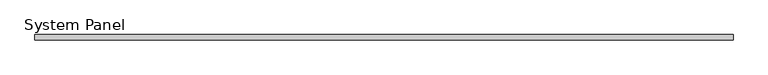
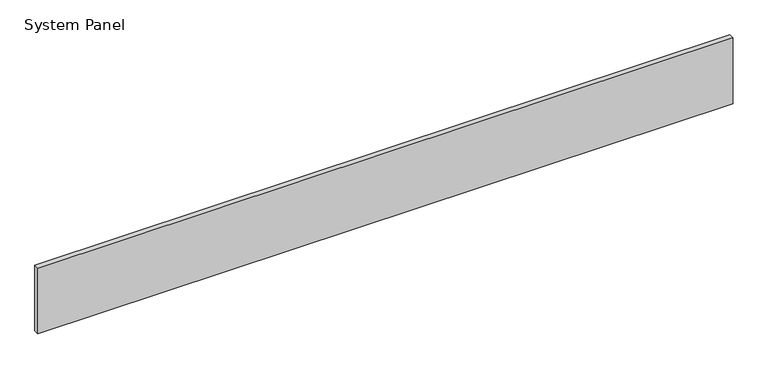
"""IFC4 building model written with IfcOpenShell, lengths in millimetres: plate geometry, System Panel : InsulWall_90mm_Plain_Surfmist."""

import ifcopenshell
import ifcopenshell.guid

model = None  # the IFC model being written
_history = None  # IfcOwnerHistory: only IFC2X3 demands one
_inside = {}  # id of a spatial element -> (the spatial element, [elements in it])
_under = {}  # id of a project, library or spatial element -> (it, [spatial elements below it])
_declared = {}  # id of a project -> (the project, [libraries it declares])
_typed = {}  # id of a type object -> (the type object, [elements of that type])
_made_of = {}  # id of a material, layer set ... -> (it, [elements and type objects made of it])


def new_model(schema):
    """Start an empty IFC model of exactly this schema.

    Asked for "IFC4X3", IfcOpenShell would pick the latest addendum, in which some entities
    have other attributes; the version numbers below select the first issue.
    IFC2X3 requires an IfcOwnerHistory on every rooted entity: one is made here for all.
    """
    global model, _history
    if schema == "IFC4X3":
        model = ifcopenshell.file(schema_version=(4, 3, 0, 0))
    else:
        model = ifcopenshell.file(schema=schema)
    _inside.clear()
    _under.clear()
    _declared.clear()
    _typed.clear()
    _made_of.clear()
    _history = None
    if model.schema == "IFC2X3":
        org = make("IfcOrganization", Name="unknown")
        user = make(
            "IfcPersonAndOrganization",
            ThePerson=make("IfcPerson", FamilyName="unknown"),
            TheOrganization=org,
        )
        app = make(
            "IfcApplication",
            ApplicationDeveloper=org,
            Version="unknown",
            ApplicationFullName="unknown",
            ApplicationIdentifier="unknown",
        )
        _history = make(
            "IfcOwnerHistory",
            OwningUser=user,
            OwningApplication=app,
            ChangeAction="ADDED",
            CreationDate=0,
        )
    return model


def make(cls, **values):
    """One entity of the class cls with the attributes given. An attribute that is None is left unset."""
    return model.create_entity(
        cls, **{name: value for name, value in values.items() if value is not None}
    )


def rooted(cls, **values):
    """An entity with a GlobalId (a new one), such as an element, a storey or a relation."""
    return make(cls, GlobalId=ifcopenshell.guid.new(), OwnerHistory=_history, **values)


def si_unit(unit_type, name, prefix=None):
    """IfcSIUnit, for example si_unit("LENGTHUNIT", "METRE", prefix="MILLI")."""
    return make("IfcSIUnit", UnitType=unit_type, Prefix=prefix, Name=name)


def assignment(units):
    """IfcUnitAssignment: the units of a project."""
    return None if units is None else make("IfcUnitAssignment", Units=units)


def point(xyz):
    """IfcCartesianPoint."""
    return None if xyz is None else make("IfcCartesianPoint", Coordinates=xyz)


def direction(xyz):
    """IfcDirection."""
    return None if xyz is None else make("IfcDirection", DirectionRatios=xyz)


def frame(location, z_axis=None, x_axis=None):
    """IfcAxis2Placement3D, a coordinate frame: its origin and axes. An axis left out is left unset."""
    return make(
        "IfcAxis2Placement3D",
        Location=point(location),
        Axis=direction(z_axis),
        RefDirection=direction(x_axis),
    )


def origin():
    """The frame at (0, 0, 0) with its axes left unset."""
    return frame((0.0, 0.0, 0.0))


def origin_with_axes():
    """The frame at (0, 0, 0) with the z axis (0, 0, 1) and the x axis (1, 0, 0) written out."""
    return frame((0.0, 0.0, 0.0), z_axis=(0.0, 0.0, 1.0), x_axis=(1.0, 0.0, 0.0))


def place(relative_to, where):
    """IfcLocalPlacement: puts the frame where relative to a parent placement (None: the world)."""
    return make(
        "IfcLocalPlacement", PlacementRelTo=relative_to, RelativePlacement=where
    )


def context(
    kind, dimensions, precision=None, world=None, true_north=None, identifier=None
):
    """IfcGeometricRepresentationContext, for example the 3D "Model" context."""
    return make(
        "IfcGeometricRepresentationContext",
        ContextIdentifier=identifier,
        ContextType=kind,
        CoordinateSpaceDimension=dimensions,
        Precision=precision,
        WorldCoordinateSystem=world,
        TrueNorth=true_north,
    )


def project(units=None, contexts=None):
    """IfcProject with its units and contexts."""
    return rooted(
        "IfcProject",
        Name="project",
        RepresentationContexts=contexts,
        UnitsInContext=assignment(units),
    )


def spatial(cls, under=None, at=None, **own):
    """A site, building, storey or space (cls), placed at a placement, below another one or the project."""
    s = rooted(cls, ObjectPlacement=at, **own)
    if under is not None:
        _under.setdefault(under.id(), (under, []))[1].append(s)
    return s


def polyline(points):
    """IfcPolyline through the points."""
    return make("IfcPolyline", Points=[point(p) for p in points])


def outline(outer, holes=None, kind="AREA"):
    """IfcArbitraryClosedProfileDef: a profile drawn as a closed curve; with holes, ...WithVoids."""
    if holes is None:
        return make("IfcArbitraryClosedProfileDef", ProfileType=kind, OuterCurve=outer)
    return make(
        "IfcArbitraryProfileDefWithVoids",
        ProfileType=kind,
        OuterCurve=outer,
        InnerCurves=holes,
    )


def extrude(swept, where, along, depth):
    """IfcExtrudedAreaSolid: the profile swept, set in the frame where, extruded along a direction by depth."""
    return make(
        "IfcExtrudedAreaSolid",
        SweptArea=swept,
        Position=where,
        ExtrudedDirection=direction(along),
        Depth=depth,
    )


def shape(context_of_items, identifier, shape_type, items):
    """IfcShapeRepresentation: the items that make up one representation, for example the "Body"."""
    return make(
        "IfcShapeRepresentation",
        ContextOfItems=context_of_items,
        RepresentationIdentifier=identifier,
        RepresentationType=shape_type,
        Items=items,
    )


def source(mapping_origin, context_of_items, identifier, shape_type, items):
    """IfcRepresentationMap: a shape defined once, which mapped items show again and again."""
    return make(
        "IfcRepresentationMap",
        MappingOrigin=mapping_origin,
        MappedRepresentation=shape(context_of_items, identifier, shape_type, items),
    )


def transform(
    local_origin,
    x_axis=None,
    y_axis=None,
    z_axis=None,
    scale=None,
    scale2=None,
    scale3=None,
    uniform=True,
):
    """IfcCartesianTransformationOperator3D, or its non-uniform kind. x_axis, y_axis, z_axis: its Axis1, 2, 3."""
    if uniform:
        return make(
            "IfcCartesianTransformationOperator3D",
            Axis1=direction(x_axis),
            Axis2=direction(y_axis),
            LocalOrigin=point(local_origin),
            Scale=scale,
            Axis3=direction(z_axis),
        )
    return make(
        "IfcCartesianTransformationOperator3DnonUniform",
        Axis1=direction(x_axis),
        Axis2=direction(y_axis),
        LocalOrigin=point(local_origin),
        Scale=scale,
        Axis3=direction(z_axis),
        Scale2=scale2,
        Scale3=scale3,
    )


def mapped(mapping_source, mapping_target):
    """IfcMappedItem: shows the shape of a source again, moved by a transform."""
    return make(
        "IfcMappedItem", MappingSource=mapping_source, MappingTarget=mapping_target
    )


def made_of(thing, what):
    """Note that an element or type object is made of a material, layer set ...; save() writes the relation."""
    if what is not None:
        _made_of.setdefault(what.id(), (what, []))[1].append(thing)
    return thing


def element(
    cls,
    number,
    at=None,
    inside=None,
    cuts=None,
    type_object=None,
    material=None,
    context=None,
    identifier="Body",
    shape_type=None,
    held_by="IfcProductDefinitionShape",
    body=None,
    shapes=None,
    **own,
):
    """One element of the class cls, such as IfcWall. Its Tag is "e" and its number.

    at: its placement. inside: the storey or other place that contains it. cuts: it is an
    opening in that element (IfcRelVoidsElement). A single representation is given by context,
    identifier, shape_type and body (its items); several are given by shapes. held_by: the class
    of the entity that holds the representations. save() writes the other relations.
    """
    e = rooted(cls, Tag="e%d" % number, ObjectPlacement=at, **own)
    if body is not None:
        shapes = [shape(context, identifier, shape_type, body)]
    if shapes is not None:
        e.Representation = make(held_by, Representations=shapes)
    if inside is not None:
        _inside.setdefault(inside.id(), (inside, []))[1].append(e)
    if cuts is not None:
        rooted(
            "IfcRelVoidsElement", RelatingBuildingElement=cuts, RelatedOpeningElement=e
        )
    if type_object is not None:
        _typed.setdefault(type_object.id(), (type_object, []))[1].append(e)
    return made_of(e, material)


def aggregate(whole, parts):
    """IfcRelAggregates: a whole, such as a stair, and the parts it consists of."""
    return rooted("IfcRelAggregates", RelatingObject=whole, RelatedObjects=parts)


def save(model, path):
    """Write the relations noted so far, then the file.

    IfcRelAggregates (storeys below a building ...), IfcRelContainedInSpatialStructure (elements
    in a storey), IfcRelDefinesByType, IfcRelAssociatesMaterial and IfcRelDeclares: one each for
    every whole, place, type object, material and project.
    """
    for whole, parts in _under.values():
        aggregate(whole, parts)
    for where, things in _inside.values():
        rooted(
            "IfcRelContainedInSpatialStructure",
            RelatedElements=things,
            RelatingStructure=where,
        )
    for kind, things in _typed.values():
        rooted("IfcRelDefinesByType", RelatedObjects=things, RelatingType=kind)
    for what, things in _made_of.values():
        rooted("IfcRelAssociatesMaterial", RelatedObjects=things, RelatingMaterial=what)
    for by, libraries in _declared.values():
        rooted("IfcRelDeclares", RelatingContext=by, RelatedDefinitions=libraries)
    model.write(path)


def system_panel_87b1fef7(model_context):
    return source(origin(), model_context, "Body", "SweptSolid", [
        extrude(outline(polyline([(6000.0, 0.0), (-6000.0, 0.0), (-6000.0, 90.0), (6000.0, 90.0), (6000.0, 0.0)])), origin_with_axes(), (0.0, 0.0, 1.0), 1200.0),
    ])


if __name__ == "__main__":
    model = new_model("IFC4")
    model_context = context("Model", 3, world=origin())
    ifc_project = project(units=[si_unit("LENGTHUNIT", "METRE", prefix="MILLI")], contexts=[model_context])
    site = spatial("IfcSite", under=ifc_project)
    building = spatial("IfcBuilding", under=site)
    placement = place(None, origin())
    system_panel_shape = system_panel_87b1fef7(model_context)
    element("IfcPlate", 1, ObjectType="System Panel : InsulWall_90mm_Plain_Surfmist", at=placement, inside=building, context=model_context, shape_type="MappedRepresentation", body=[
        mapped(system_panel_shape, transform((0.0, 0.0, 0.0), x_axis=(1.0, 0.0, 0.0), y_axis=(0.0, 1.0, 0.0), z_axis=(0.0, 0.0, 1.0))),
    ])
    save(model, "model.ifc")
